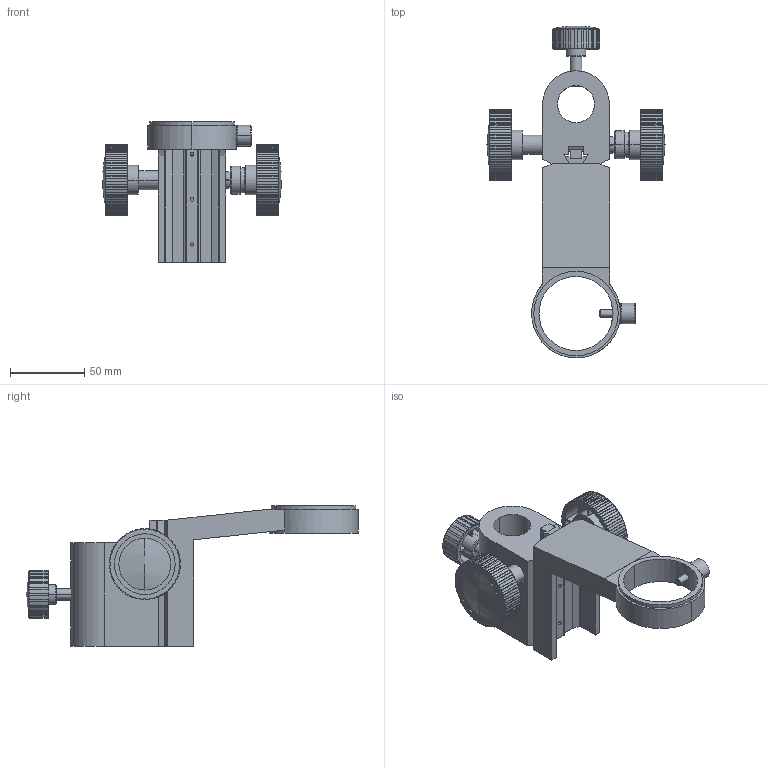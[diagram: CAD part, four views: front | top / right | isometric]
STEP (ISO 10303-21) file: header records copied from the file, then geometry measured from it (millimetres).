
FILE_DESCRIPTION((''),'2;1');
FILE_NAME('B100004_ASM','2024-03-13T14:44:10',('fangzhiyong'),(''),'CREO PARAMETRIC BY PTC INC, 2020044','CREO PARAMETRIC BY PTC INC, 2020044','');
FILE_SCHEMA(('CONFIG_CONTROL_DESIGN'));
Length unit declared in the file: millimetre
Products named in the file (24): BREP_43; BREP_32; BREP_54; BREP_46; BREP_35; BREP_62; BREP_51; BREP_55; BREP_44; BREP_41; BREP_31; BREP_58; BREP_38; BREP_60; BREP_57; BREP_40; BREP_48; BREP_45; BREP_53; BREP_37; BREP_33; BREP_50; ADMI3E458BAH_ASM; B100004_ASM
Assembly tree (23 placements, depth 3):
  B100004_ASM
    ADMI3E458BAH_ASM
      BREP_43
      BREP_32
      BREP_54
      BREP_46
      BREP_35
      BREP_62
      BREP_51
      BREP_55
      BREP_44
      BREP_41
      BREP_31
      BREP_58
      BREP_38
      BREP_60
      BREP_57
      BREP_40
      BREP_48
      BREP_45
      BREP_53
      BREP_37
      BREP_33
      BREP_50
Bounding box: 120.8 x 224.25 x 95 mm (x, y, z)
Volume: 252703.9 mm3; surface area: 114582.7 mm2
Topology: 22 solids, 22 shells, 1327 faces, 3607 edges, 2365 vertices
Faces by surface type: cylinder 597, plane 482, cone 232, sphere 14, torus 2
Entity records: 50020 total; most frequent: CARTESIAN_POINT 15396, DIRECTION 7400, ORIENTED_EDGE 7194, EDGE_CURVE 3597, AXIS2_PLACEMENT_3D 2895, VERTEX_POINT 2365, VECTOR 1610, LINE 1610
